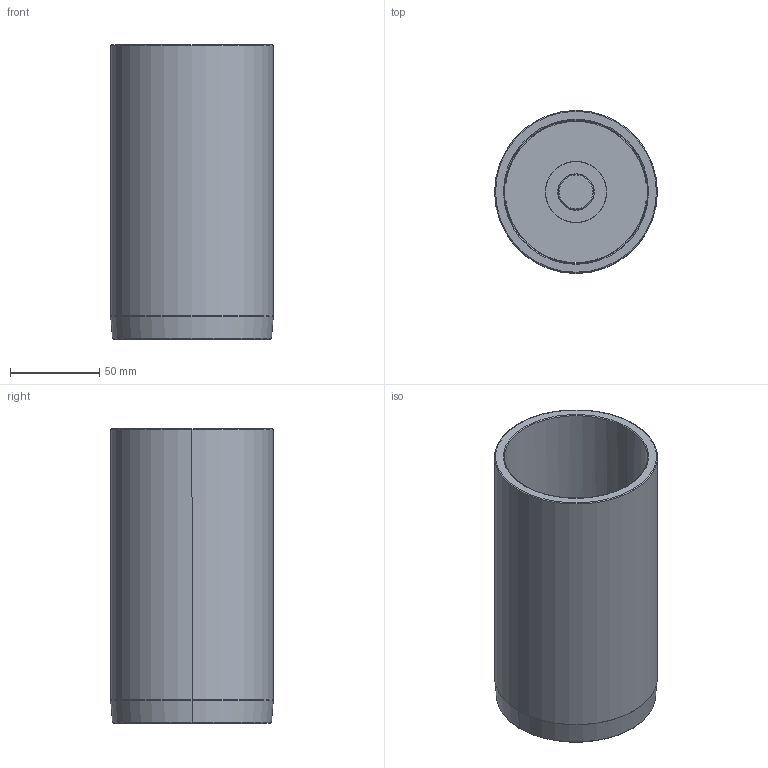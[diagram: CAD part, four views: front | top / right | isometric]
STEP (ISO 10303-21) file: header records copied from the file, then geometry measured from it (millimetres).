
FILE_DESCRIPTION((''),'2;1');
FILE_NAME('C12_080_165.stp','2009-01-29T09:36:39',(''),(''),'Mechanical Desktop 2009','Mechanical Desktop 2009',', , ');
FILE_SCHEMA(('CONFIG_CONTROL_DESIGN'));
Length unit declared in the file: millimetre
Products named in the file (2): Product; blmdl1
Assembly tree (1 placements, depth 2):
  Product
    blmdl1
Bounding box: 91.25 x 91.25 x 165 mm (x, y, z)
Volume: 271670 mm3; surface area: 113070.3 mm2
Topology: 5 solids, 5 shells, 79 faces, 200 edges, 134 vertices
Faces by surface type: cylinder 34, plane 29, torus 10, cone 6
Entity records: 2585 total; most frequent: DIRECTION 480, CARTESIAN_POINT 435, ORIENTED_EDGE 400, AXIS2_PLACEMENT_3D 203, EDGE_CURVE 200, VERTEX_POINT 134, CIRCLE 122, EDGE_LOOP 92
